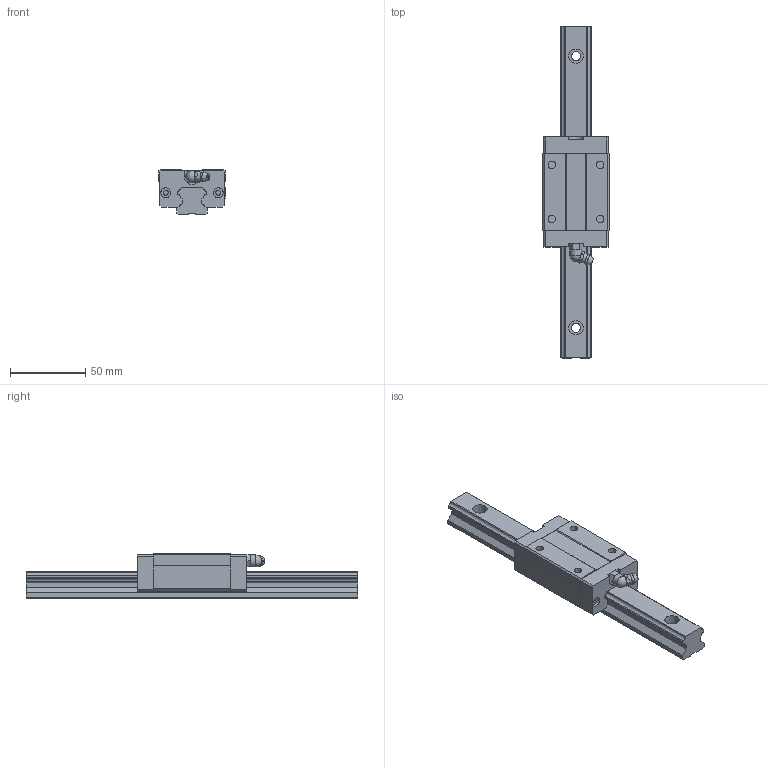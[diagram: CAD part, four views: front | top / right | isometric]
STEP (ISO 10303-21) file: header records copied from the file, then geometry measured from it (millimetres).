
FILE_DESCRIPTION(/* description */ (''),/* implementation_level */ '2;1');
FILE_NAME(/* name */ 'MSA20S',/* time_stamp */ '2003-12-29T11:16:45+08:00',/* author */ (''),/* organization */ (''),/* preprocessor_version */ 'ST-DEVELOPER v9',/* originating_system */ '',/* authorisation */ '');
FILE_SCHEMA (('CONFIG_CONTROL_DESIGN'));
Length unit declared in the file: millimetre
Products named in the file (1): zirc5932mwag
Bounding box: 44 x 220 x 30 mm (x, y, z)
Volume: 124350.5 mm3; surface area: 34543.7 mm2
Topology: 3 solids, 3 shells, 177 faces, 453 edges, 294 vertices
Faces by surface type: plane 135, cylinder 31, torus 7, sphere 2, cone 1, bspline 1
Full cylindrical faces by diameter (mm): 3.25 x4, 5 x4, 6 x4, 6.5 x4, 8 x1, 9.5 x4
Entity records: 5389 total; most frequent: CARTESIAN_POINT 1060, DIRECTION 860, ORIENTED_EDGE 850, EDGE_CURVE 425, LINE 308, VECTOR 308, VERTEX_POINT 292, AXIS2_PLACEMENT_3D 276
